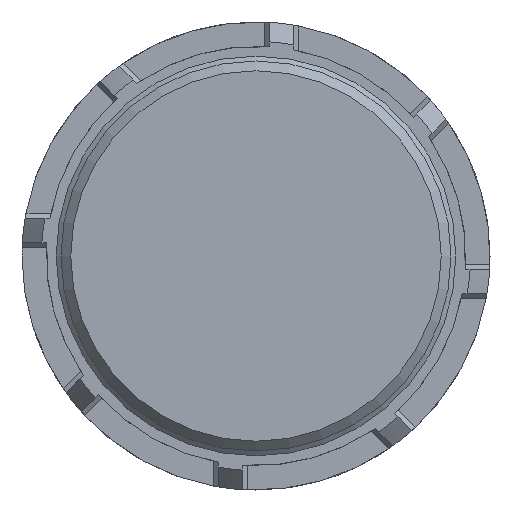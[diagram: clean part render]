
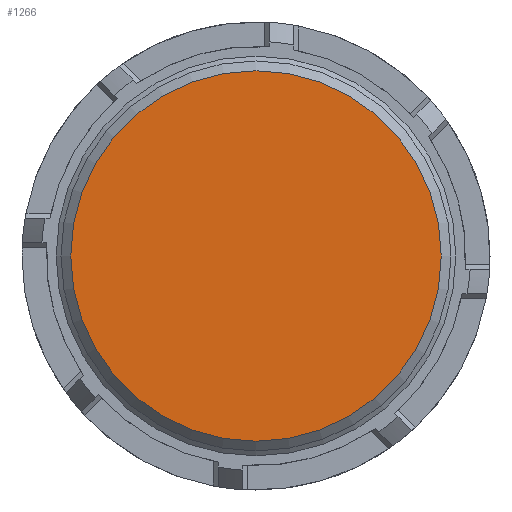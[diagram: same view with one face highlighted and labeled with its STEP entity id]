
A CAD part, front view. The second image highlights one B-rep face of the part: STEP entity #1266.
In plain terms, the highlighted planar face has unit normal (0, -1, 0).
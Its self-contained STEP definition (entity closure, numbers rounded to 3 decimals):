
#99=CIRCLE('',#1431,3.8);
#173=FACE_OUTER_BOUND('',#241,.T.);
#241=EDGE_LOOP('',(#1093));
#572=VERTEX_POINT('',#2238);
#757=EDGE_CURVE('',#572,#572,#99,.T.);
#1093=ORIENTED_EDGE('',*,*,#757,.F.);
#1205=PLANE('',#1434);
#1266=ADVANCED_FACE('',(#173),#1205,.T.);
#1431=AXIS2_PLACEMENT_3D('',#2239,#1804,#1805);
#1434=AXIS2_PLACEMENT_3D('',#2245,#1811,#1812);
#1804=DIRECTION('center_axis',(0.,1.,0.));
#1805=DIRECTION('ref_axis',(-1.,0.,0.));
#1811=DIRECTION('center_axis',(0.,-1.,0.));
#1812=DIRECTION('ref_axis',(0.,0.,-1.));
#2238=CARTESIAN_POINT('',(3.8,0.,0.));
#2239=CARTESIAN_POINT('Origin',(0.,0.,0.));
#2245=CARTESIAN_POINT('Origin',(0.,0.,0.));
